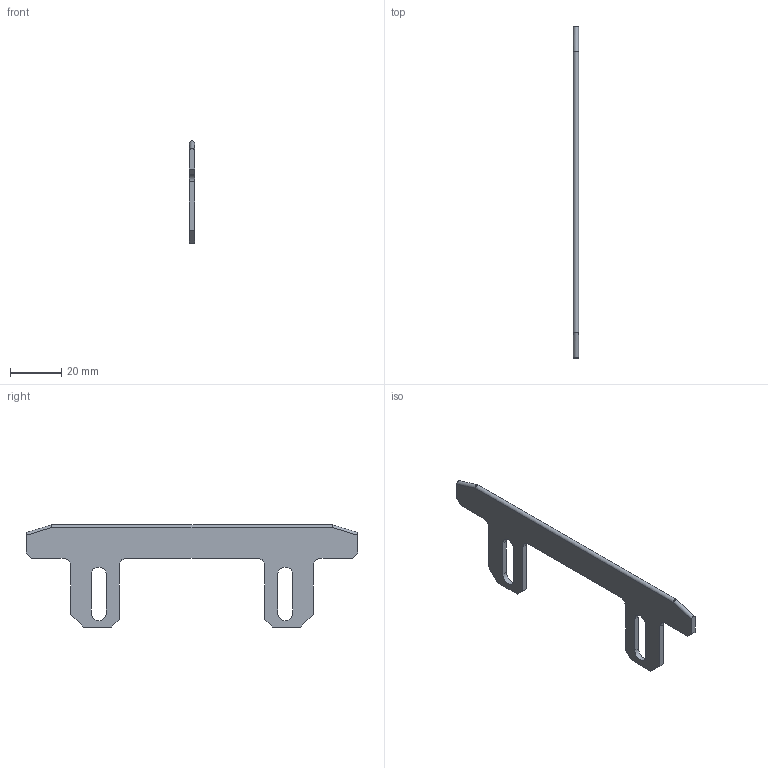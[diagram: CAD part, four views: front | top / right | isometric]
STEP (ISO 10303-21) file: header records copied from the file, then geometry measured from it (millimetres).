
FILE_DESCRIPTION(/* description */ (''),/* implementation_level */ '2;1');
FILE_NAME(/* name */ 'C:/Users/hiroshi_y/Documents/Fusion 360/FA-4040_SlideBar.step',/* time_stamp */ '2022-08-07T16:25:51+09:00',/* author */ (''),/* organization */ (''),/* preprocessor_version */ 'ST-DEVELOPER v19',/* originating_system */ 'Autodesk Translation Framework v11.7.0.108',/* authorisation */ '');
FILE_SCHEMA (('AUTOMOTIVE_DESIGN { 1 0 10303 214 3 1 1 }'));
Length unit declared in the file: millimetre
Products named in the file (1): FA-4040
Bounding box: 2 x 130 x 40 mm (x, y, z)
Volume: 4782.2 mm3; surface area: 5664.5 mm2
Topology: 1 solids, 1 shells, 38 faces, 104 edges, 68 vertices
Faces by surface type: plane 23, cylinder 11, sphere 4
Entity records: 1269 total; most frequent: CARTESIAN_POINT 211, DIRECTION 210, ORIENTED_EDGE 208, EDGE_CURVE 104, LINE 76, VECTOR 76, VERTEX_POINT 68, AXIS2_PLACEMENT_3D 67
